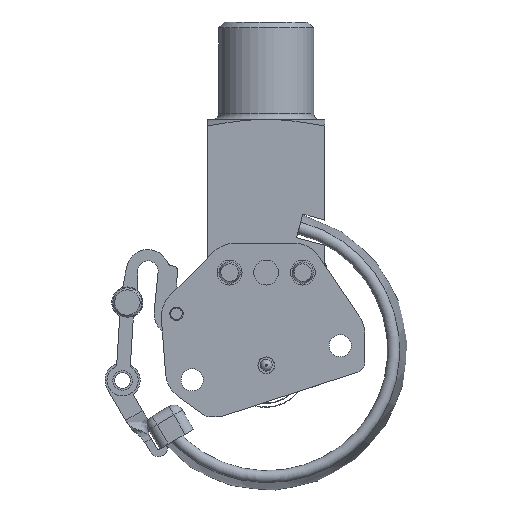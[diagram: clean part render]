
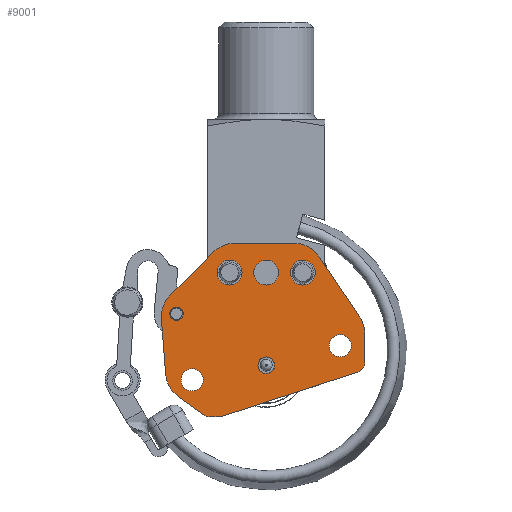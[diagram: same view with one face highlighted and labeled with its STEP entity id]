
A CAD part, front view. The second image highlights one B-rep face of the part: STEP entity #9001.
In plain terms, the highlighted planar face has unit normal (0, -1, 0) as drawn and (0, 1, 0) by its records, which use the part's own axes.
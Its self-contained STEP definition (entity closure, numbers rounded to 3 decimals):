
#467=FACE_BOUND('',#3141,.T.);
#468=FACE_BOUND('',#3142,.T.);
#469=FACE_BOUND('',#3143,.T.);
#470=FACE_BOUND('',#3144,.T.);
#471=FACE_BOUND('',#3145,.T.);
#472=FACE_BOUND('',#3146,.T.);
#473=FACE_BOUND('',#3147,.T.);
#586=LINE('',#13665,#1468);
#589=LINE('',#13671,#1471);
#590=LINE('',#13675,#1472);
#591=LINE('',#13679,#1473);
#592=LINE('',#13683,#1474);
#593=LINE('',#13687,#1475);
#594=LINE('',#13691,#1476);
#595=LINE('',#13695,#1477);
#1468=VECTOR('',#10921,10.);
#1471=VECTOR('',#10926,10.);
#1472=VECTOR('',#10929,10.);
#1473=VECTOR('',#10932,10.);
#1474=VECTOR('',#10935,10.);
#1475=VECTOR('',#10938,10.);
#1476=VECTOR('',#10941,10.);
#1477=VECTOR('',#10944,10.);
#2309=PLANE('',#9847);
#2617=FACE_OUTER_BOUND('',#3140,.T.);
#3140=EDGE_LOOP('',(#6547,#6548,#6549,#6550,#6551,#6552,#6553,#6554,#6555,
#6556,#6557,#6558,#6559,#6560,#6561,#6562));
#3141=EDGE_LOOP('',(#6563));
#3142=EDGE_LOOP('',(#6564));
#3143=EDGE_LOOP('',(#6565));
#3144=EDGE_LOOP('',(#6566));
#3145=EDGE_LOOP('',(#6567));
#3146=EDGE_LOOP('',(#6568));
#3147=EDGE_LOOP('',(#6569));
#3694=CIRCLE('',#9844,1.);
#3696=CIRCLE('',#9848,1.);
#3697=CIRCLE('',#9849,1.);
#3698=CIRCLE('',#9850,3.);
#3699=CIRCLE('',#9851,3.);
#3700=CIRCLE('',#9852,3.);
#3701=CIRCLE('',#9853,3.);
#3702=CIRCLE('',#9854,3.);
#3703=CIRCLE('',#9855,1.275);
#3704=CIRCLE('',#9856,1.275);
#3705=CIRCLE('',#9857,1.275);
#3706=CIRCLE('',#9858,1.135);
#3707=CIRCLE('',#9859,1.135);
#3708=CIRCLE('',#9860,0.69);
#3709=CIRCLE('',#9861,0.85);
#4136=VERTEX_POINT('',#13655);
#4137=VERTEX_POINT('',#13656);
#4140=VERTEX_POINT('',#13664);
#4142=VERTEX_POINT('',#13670);
#4143=VERTEX_POINT('',#13672);
#4144=VERTEX_POINT('',#13674);
#4145=VERTEX_POINT('',#13676);
#4146=VERTEX_POINT('',#13678);
#4147=VERTEX_POINT('',#13680);
#4148=VERTEX_POINT('',#13682);
#4149=VERTEX_POINT('',#13684);
#4150=VERTEX_POINT('',#13686);
#4151=VERTEX_POINT('',#13688);
#4152=VERTEX_POINT('',#13690);
#4153=VERTEX_POINT('',#13692);
#4154=VERTEX_POINT('',#13694);
#4155=VERTEX_POINT('',#13697);
#4156=VERTEX_POINT('',#13699);
#4157=VERTEX_POINT('',#13701);
#4158=VERTEX_POINT('',#13703);
#4159=VERTEX_POINT('',#13705);
#4160=VERTEX_POINT('',#13707);
#4161=VERTEX_POINT('',#13709);
#5050=EDGE_CURVE('',#4136,#4137,#3694,.T.);
#5054=EDGE_CURVE('',#4140,#4137,#586,.T.);
#5057=EDGE_CURVE('',#4136,#4142,#589,.T.);
#5058=EDGE_CURVE('',#4143,#4142,#3696,.T.);
#5059=EDGE_CURVE('',#4143,#4144,#590,.T.);
#5060=EDGE_CURVE('',#4145,#4144,#3697,.T.);
#5061=EDGE_CURVE('',#4145,#4146,#591,.T.);
#5062=EDGE_CURVE('',#4147,#4146,#3698,.T.);
#5063=EDGE_CURVE('',#4147,#4148,#592,.T.);
#5064=EDGE_CURVE('',#4149,#4148,#3699,.T.);
#5065=EDGE_CURVE('',#4149,#4150,#593,.T.);
#5066=EDGE_CURVE('',#4151,#4150,#3700,.T.);
#5067=EDGE_CURVE('',#4151,#4152,#594,.T.);
#5068=EDGE_CURVE('',#4153,#4152,#3701,.T.);
#5069=EDGE_CURVE('',#4153,#4154,#595,.T.);
#5070=EDGE_CURVE('',#4140,#4154,#3702,.T.);
#5071=EDGE_CURVE('',#4155,#4155,#3703,.T.);
#5072=EDGE_CURVE('',#4156,#4156,#3704,.T.);
#5073=EDGE_CURVE('',#4157,#4157,#3705,.T.);
#5074=EDGE_CURVE('',#4158,#4158,#3706,.T.);
#5075=EDGE_CURVE('',#4159,#4159,#3707,.T.);
#5076=EDGE_CURVE('',#4160,#4160,#3708,.T.);
#5077=EDGE_CURVE('',#4161,#4161,#3709,.T.);
#6547=ORIENTED_EDGE('',*,*,#5050,.F.);
#6548=ORIENTED_EDGE('',*,*,#5057,.T.);
#6549=ORIENTED_EDGE('',*,*,#5058,.F.);
#6550=ORIENTED_EDGE('',*,*,#5059,.T.);
#6551=ORIENTED_EDGE('',*,*,#5060,.F.);
#6552=ORIENTED_EDGE('',*,*,#5061,.T.);
#6553=ORIENTED_EDGE('',*,*,#5062,.F.);
#6554=ORIENTED_EDGE('',*,*,#5063,.T.);
#6555=ORIENTED_EDGE('',*,*,#5064,.F.);
#6556=ORIENTED_EDGE('',*,*,#5065,.T.);
#6557=ORIENTED_EDGE('',*,*,#5066,.F.);
#6558=ORIENTED_EDGE('',*,*,#5067,.T.);
#6559=ORIENTED_EDGE('',*,*,#5068,.F.);
#6560=ORIENTED_EDGE('',*,*,#5069,.T.);
#6561=ORIENTED_EDGE('',*,*,#5070,.F.);
#6562=ORIENTED_EDGE('',*,*,#5054,.T.);
#6563=ORIENTED_EDGE('',*,*,#5071,.T.);
#6564=ORIENTED_EDGE('',*,*,#5072,.T.);
#6565=ORIENTED_EDGE('',*,*,#5073,.T.);
#6566=ORIENTED_EDGE('',*,*,#5074,.T.);
#6567=ORIENTED_EDGE('',*,*,#5075,.T.);
#6568=ORIENTED_EDGE('',*,*,#5076,.T.);
#6569=ORIENTED_EDGE('',*,*,#5077,.T.);
#9001=ADVANCED_FACE('',(#2617,#467,#468,#469,#470,#471,#472,#473),#2309,
 .T.);
#9844=AXIS2_PLACEMENT_3D('',#13657,#10913,#10914);
#9847=AXIS2_PLACEMENT_3D('',#13669,#10924,#10925);
#9848=AXIS2_PLACEMENT_3D('',#13673,#10927,#10928);
#9849=AXIS2_PLACEMENT_3D('',#13677,#10930,#10931);
#9850=AXIS2_PLACEMENT_3D('',#13681,#10933,#10934);
#9851=AXIS2_PLACEMENT_3D('',#13685,#10936,#10937);
#9852=AXIS2_PLACEMENT_3D('',#13689,#10939,#10940);
#9853=AXIS2_PLACEMENT_3D('',#13693,#10942,#10943);
#9854=AXIS2_PLACEMENT_3D('',#13696,#10945,#10946);
#9855=AXIS2_PLACEMENT_3D('',#13698,#10947,#10948);
#9856=AXIS2_PLACEMENT_3D('',#13700,#10949,#10950);
#9857=AXIS2_PLACEMENT_3D('',#13702,#10951,#10952);
#9858=AXIS2_PLACEMENT_3D('',#13704,#10953,#10954);
#9859=AXIS2_PLACEMENT_3D('',#13706,#10955,#10956);
#9860=AXIS2_PLACEMENT_3D('',#13708,#10957,#10958);
#9861=AXIS2_PLACEMENT_3D('',#13710,#10959,#10960);
#10913=DIRECTION('center_axis',(0.,-1.,0.));
#10914=DIRECTION('ref_axis',(-0.951,0.,-0.309));
#10921=DIRECTION('',(-0.588,0.,0.809));
#10924=DIRECTION('center_axis',(0.,1.,0.));
#10925=DIRECTION('ref_axis',(0.,0.,1.));
#10926=DIRECTION('',(0.,0.,1.));
#10927=DIRECTION('center_axis',(0.,-1.,0.));
#10928=DIRECTION('ref_axis',(-0.988,0.,0.156));
#10929=DIRECTION('',(0.309,0.,0.951));
#10930=DIRECTION('center_axis',(0.,-1.,0.));
#10931=DIRECTION('ref_axis',(-0.588,0.,0.809));
#10932=DIRECTION('',(1.,0.,0.));
#10933=DIRECTION('center_axis',(0.,-1.,0.));
#10934=DIRECTION('ref_axis',(0.292,0.,0.956));
#10935=DIRECTION('',(0.829,0.,-0.559));
#10936=DIRECTION('center_axis',(0.,-1.,0.));
#10937=DIRECTION('ref_axis',(0.883,0.,0.469));
#10938=DIRECTION('',(0.,0.,-1.));
#10939=DIRECTION('center_axis',(0.,-1.,0.));
#10940=DIRECTION('ref_axis',(0.924,0.,-0.383));
#10941=DIRECTION('',(-0.707,0.,-0.707));
#10942=DIRECTION('center_axis',(0.,-1.,0.));
#10943=DIRECTION('ref_axis',(0.346,0.,-0.938));
#10944=DIRECTION('',(-0.997,0.,0.078));
#10945=DIRECTION('center_axis',(0.,-1.,0.));
#10946=DIRECTION('ref_axis',(-0.489,0.,-0.873));
#10947=DIRECTION('center_axis',(0.,-1.,0.));
#10948=DIRECTION('ref_axis',(1.,0.,0.));
#10949=DIRECTION('center_axis',(0.,-1.,0.));
#10950=DIRECTION('ref_axis',(1.,0.,0.));
#10951=DIRECTION('center_axis',(0.,-1.,0.));
#10952=DIRECTION('ref_axis',(1.,0.,0.));
#10953=DIRECTION('center_axis',(0.,-1.,0.));
#10954=DIRECTION('ref_axis',(1.,0.,0.));
#10955=DIRECTION('center_axis',(0.,-1.,0.));
#10956=DIRECTION('ref_axis',(1.,0.,0.));
#10957=DIRECTION('center_axis',(0.,-1.,0.));
#10958=DIRECTION('ref_axis',(1.,0.,0.));
#10959=DIRECTION('center_axis',(0.,-1.,0.));
#10960=DIRECTION('ref_axis',(1.,0.,0.));
#13655=CARTESIAN_POINT('',(-5.275,0.8,-5.824));
#13656=CARTESIAN_POINT('',(-5.084,0.8,-6.412));
#13657=CARTESIAN_POINT('Origin',(-4.275,0.8,-5.824));
#13664=CARTESIAN_POINT('',(-3.146,0.8,-9.079));
#13665=CARTESIAN_POINT('',(-2.333,0.8,-10.197));
#13669=CARTESIAN_POINT('Origin',(3.693,0.8,-0.713));
#13670=CARTESIAN_POINT('',(-5.275,0.8,-4.808));
#13671=CARTESIAN_POINT('',(-5.275,0.8,-6.149));
#13672=CARTESIAN_POINT('',(-5.226,0.8,-4.499));
#13673=CARTESIAN_POINT('Origin',(-4.275,0.8,-4.808));
#13674=CARTESIAN_POINT('',(-0.71,0.8,9.401));
#13675=CARTESIAN_POINT('',(-5.275,0.8,-4.649));
#13676=CARTESIAN_POINT('',(0.241,0.8,10.092));
#13677=CARTESIAN_POINT('Origin',(0.241,0.8,9.092));
#13678=CARTESIAN_POINT('',(3.297,0.8,10.092));
#13679=CARTESIAN_POINT('',(-0.485,0.8,10.092));
#13680=CARTESIAN_POINT('',(4.975,0.8,9.579));
#13681=CARTESIAN_POINT('Origin',(3.297,0.8,7.092));
#13682=CARTESIAN_POINT('',(11.183,0.8,5.392));
#13683=CARTESIAN_POINT('',(4.215,0.8,10.092));
#13684=CARTESIAN_POINT('',(12.505,0.8,2.905));
#13685=CARTESIAN_POINT('Origin',(9.505,0.8,2.905));
#13686=CARTESIAN_POINT('',(12.505,0.8,-3.257));
#13687=CARTESIAN_POINT('',(12.505,0.8,4.5));
#13688=CARTESIAN_POINT('',(11.626,0.8,-5.379));
#13689=CARTESIAN_POINT('Origin',(9.505,0.8,-3.257));
#13690=CARTESIAN_POINT('',(7.119,0.8,-9.886));
#13691=CARTESIAN_POINT('',(12.505,0.8,-4.5));
#13692=CARTESIAN_POINT('',(4.762,0.8,-10.755));
#13693=CARTESIAN_POINT('Origin',(4.998,0.8,-7.765));
#13694=CARTESIAN_POINT('',(-0.954,0.8,-10.306));
#13695=CARTESIAN_POINT('',(6.141,0.8,-10.864));
#13696=CARTESIAN_POINT('Origin',(-0.719,0.8,-7.315));
#13697=CARTESIAN_POINT('',(8.225,0.8,0.));
#13698=CARTESIAN_POINT('Origin',(9.5,0.8,0.));
#13699=CARTESIAN_POINT('',(8.225,0.8,-3.75));
#13700=CARTESIAN_POINT('Origin',(9.5,0.8,-3.75));
#13701=CARTESIAN_POINT('',(8.225,0.8,3.75));
#13702=CARTESIAN_POINT('Origin',(9.5,0.8,3.75));
#13703=CARTESIAN_POINT('',(-2.635,0.8,-7.6));
#13704=CARTESIAN_POINT('Origin',(-1.5,0.8,-7.6));
#13705=CARTESIAN_POINT('',(0.865,0.8,7.6));
#13706=CARTESIAN_POINT('Origin',(2.,0.8,7.6));
#13707=CARTESIAN_POINT('',(4.59,0.8,-9.2));
#13708=CARTESIAN_POINT('Origin',(5.28,0.8,-9.2));
#13709=CARTESIAN_POINT('',(-0.85,0.8,0.));
#13710=CARTESIAN_POINT('Origin',(0.,0.8,0.));
